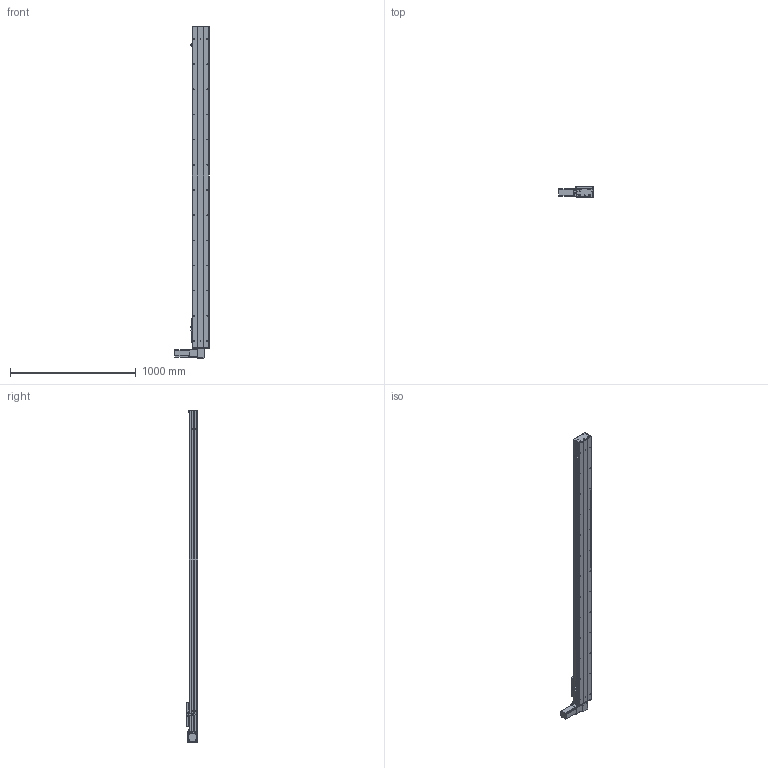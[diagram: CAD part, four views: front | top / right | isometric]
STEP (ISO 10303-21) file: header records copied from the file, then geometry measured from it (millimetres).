
FILE_DESCRIPTION (( 'STEP AP203' ), '1' );
FILE_NAME ('Y135CB-D90-S2250-BD-P400W.STEP', '2020-02-19T06:09:50', ( '微软用户' ), ( '微软中国' ), 'SwSTEP 2.0', 'SolidWorks 2017', '' );
FILE_SCHEMA (( 'CONFIG_CONTROL_DESIGN' ));
Length unit declared in the file: millimetre
Products named in the file (16): Y100-135俋离換覜ん--; 135CB---遴掛极.-; Y135C-陔俋离換覜結え-; 35CB---喘謫眊楊擘啣; 5C--俋欶; 0B-埴倛裔啣; C-雄赽釱--; 0B-源倛裔啣; Y10B--々湍喘謫眊--666; san松下电机400不带刹车----; 0B-薊粣ん眊; 5CB --掛极耜裔啣-; Y135CB-D90-S2250-BD-P400W; C-詩湍揤踡え-陔; 135CB--詩湍-CE; Y135CB-耜裔
Assembly tree (19 placements, depth 2):
  Y135CB-D90-S2250-BD-P400W
    Y135CB-耜裔
    135CB---遴掛极.-
    35CB---喘謫眊楊擘啣
    0B-埴倛裔啣
    0B-源倛裔啣
    san松下电机400不带刹车----
    5CB --掛极耜裔啣-  x2
    C-詩湍揤踡え-陔  x2
    135CB--詩湍-CE
    Y100-135俋离換覜ん--  x3
    Y135C-陔俋离換覜結え-
    5C--俋欶
    C-雄赽釱--
    Y10B--々湍喘謫眊--666
    0B-薊粣ん眊
Bounding box: 272 x 91 x 2638 mm (x, y, z)
Volume: 7632988.4 mm3; surface area: 2975624.3 mm2
Topology: 19 solids, 19 shells, 879 faces, 2374 edges, 1572 vertices
Faces by surface type: cylinder 448, plane 415, cone 16
Entity records: 27218 total; most frequent: DIRECTION 4538, CARTESIAN_POINT 4511, ORIENTED_EDGE 4224, EDGE_CURVE 2112, AXIS2_PLACEMENT_3D 1671, VERTEX_POINT 1400, VECTOR 1196, LINE 1196
